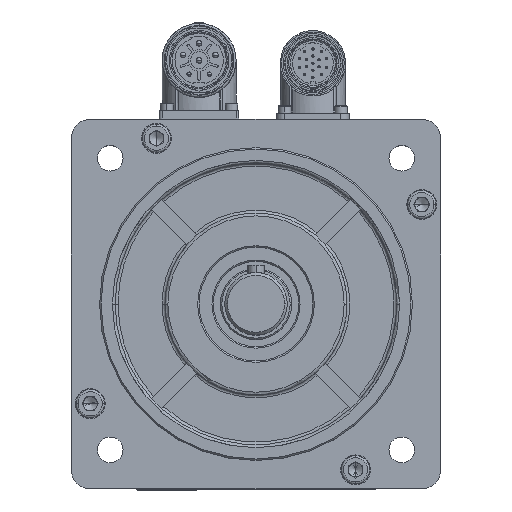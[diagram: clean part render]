
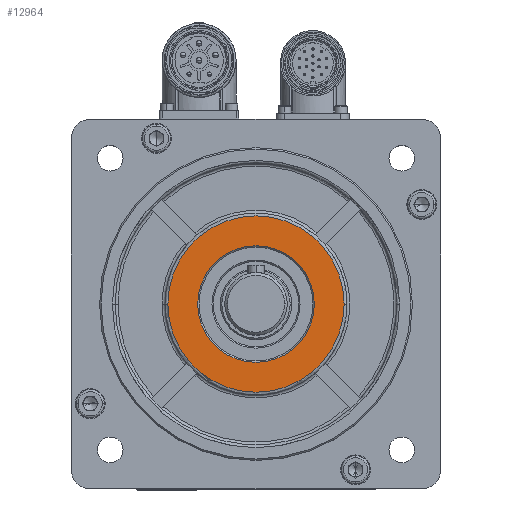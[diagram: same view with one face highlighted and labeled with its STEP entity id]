
A CAD part, top view. The second image highlights one B-rep face of the part: STEP entity #12964.
In plain terms, the highlighted planar face has unit normal (0, 0, 1).
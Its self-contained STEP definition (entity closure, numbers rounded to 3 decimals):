
#438 = ORIENTED_EDGE ( 'NONE', *, *, #35201, .T. ) ;
#4240 = DIRECTION ( 'NONE',  ( -1., 0., 0. ) ) ;
#7262 = CARTESIAN_POINT ( 'NONE',  ( 31., 0., 30.5 ) ) ;
#7401 = FACE_OUTER_BOUND ( 'NONE', #11799, .T. ) ;
#9114 = CIRCLE ( 'NONE', #26620, 31. ) ;
#11799 = EDGE_LOOP ( 'NONE', ( #51531, #70181 ) ) ;
#12729 = EDGE_CURVE ( 'NONE', #46570, #65888, #9114, .T. ) ;
#12964 = ADVANCED_FACE ( 'NONE', ( #7401, #51142 ), #20443, .F. ) ;
#13048 = VERTEX_POINT ( 'NONE', #32229 ) ;
#13814 = VERTEX_POINT ( 'NONE', #22871 ) ;
#14591 = CARTESIAN_POINT ( 'NONE',  ( -31., 0., 30.5 ) ) ;
#14884 = CARTESIAN_POINT ( 'NONE',  ( 0., 0., 30.5 ) ) ;
#19279 = CARTESIAN_POINT ( 'NONE',  ( 0., 0., 30.5 ) ) ;
#20443 = PLANE ( 'NONE',  #69361 ) ;
#22871 = CARTESIAN_POINT ( 'NONE',  ( -20.5, 0., 30.5 ) ) ;
#24786 = DIRECTION ( 'NONE',  ( -1., 0., 0. ) ) ;
#26017 = DIRECTION ( 'NONE',  ( 0., 0., 1. ) ) ;
#26620 = AXIS2_PLACEMENT_3D ( 'NONE', #19279, #31027, #24786 ) ;
#26887 = DIRECTION ( 'NONE',  ( -1., 0., 0. ) ) ;
#28052 = EDGE_CURVE ( 'NONE', #65888, #46570, #50334, .T. ) ;
#29220 = ORIENTED_EDGE ( 'NONE', *, *, #37674, .T. ) ;
#31027 = DIRECTION ( 'NONE',  ( 0., 0., 1. ) ) ;
#32229 = CARTESIAN_POINT ( 'NONE',  ( 20.5, 0., 30.5 ) ) ;
#35201 = EDGE_CURVE ( 'NONE', #13048, #13814, #60732, .T. ) ;
#36348 = CARTESIAN_POINT ( 'NONE',  ( 0., 0., 30.5 ) ) ;
#37674 = EDGE_CURVE ( 'NONE', #13814, #13048, #64772, .T. ) ;
#38403 = CARTESIAN_POINT ( 'NONE',  ( 0., 0., 30.5 ) ) ;
#42749 = DIRECTION ( 'NONE',  ( 0., 0., -1. ) ) ;
#42787 = DIRECTION ( 'NONE',  ( -1., 0., 0. ) ) ;
#44921 = AXIS2_PLACEMENT_3D ( 'NONE', #38403, #42749, #26887 ) ;
#46570 = VERTEX_POINT ( 'NONE', #14591 ) ;
#48402 = AXIS2_PLACEMENT_3D ( 'NONE', #14884, #53474, #48683 ) ;
#48683 = DIRECTION ( 'NONE',  ( -1., 0., 0. ) ) ;
#50334 = CIRCLE ( 'NONE', #53320, 31. ) ;
#51142 = FACE_BOUND ( 'NONE', #65421, .T. ) ;
#51531 = ORIENTED_EDGE ( 'NONE', *, *, #12729, .T. ) ;
#53320 = AXIS2_PLACEMENT_3D ( 'NONE', #36348, #26017, #4240 ) ;
#53474 = DIRECTION ( 'NONE',  ( 0., 0., -1. ) ) ;
#58870 = DIRECTION ( 'NONE',  ( 0., 0., -1. ) ) ;
#60732 = CIRCLE ( 'NONE', #48402, 20.5 ) ;
#64772 = CIRCLE ( 'NONE', #44921, 20.5 ) ;
#65421 = EDGE_LOOP ( 'NONE', ( #438, #29220 ) ) ;
#65888 = VERTEX_POINT ( 'NONE', #7262 ) ;
#69361 = AXIS2_PLACEMENT_3D ( 'NONE', #70527, #58870, #42787 ) ;
#70181 = ORIENTED_EDGE ( 'NONE', *, *, #28052, .T. ) ;
#70527 = CARTESIAN_POINT ( 'NONE',  ( -58.113, -58.113, 30.5 ) ) ;
